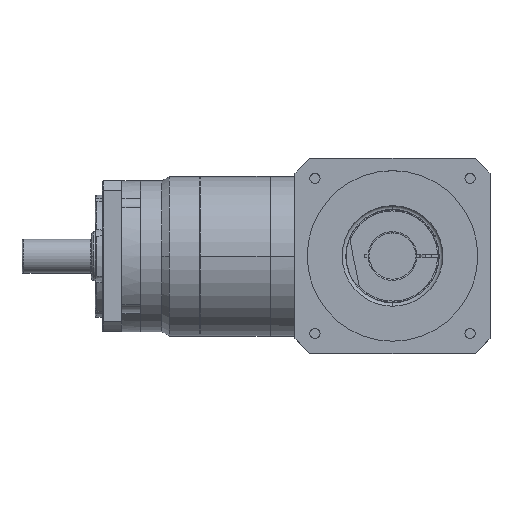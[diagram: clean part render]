
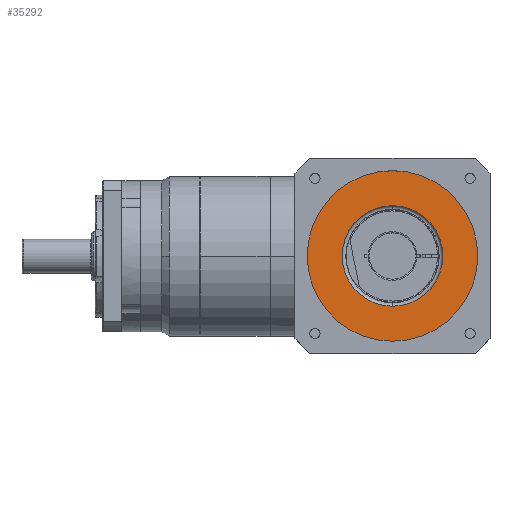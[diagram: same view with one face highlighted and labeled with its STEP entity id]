
A CAD part, top view. The second image highlights one B-rep face of the part: STEP entity #35292.
In plain terms, the highlighted planar face has unit normal (0, 0, 1) as drawn and (1, 0, 0) by its records, which use the part's own axes.
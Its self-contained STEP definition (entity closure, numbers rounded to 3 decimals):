
#1061 = DIRECTION ( 'NONE',  ( 1., 0., 0. ) ) ;
#1625 = VERTEX_POINT ( 'NONE', #49337 ) ;
#5383 = AXIS2_PLACEMENT_3D ( 'NONE', #41947, #41907, #41895 ) ;
#5548 = VERTEX_POINT ( 'NONE', #17118 ) ;
#6521 = CIRCLE ( 'NONE', #16475, 35. ) ;
#8918 = CARTESIAN_POINT ( 'NONE',  ( 28., 0., 0. ) ) ;
#10478 = CARTESIAN_POINT ( 'NONE',  ( 28., 0., -20.641 ) ) ;
#12896 = DIRECTION ( 'NONE',  ( 0., 0., -1. ) ) ;
#14221 = CARTESIAN_POINT ( 'NONE',  ( 28., 0., 0. ) ) ;
#16475 = AXIS2_PLACEMENT_3D ( 'NONE', #8918, #36411, #12896 ) ;
#16969 = ORIENTED_EDGE ( 'NONE', *, *, #19764, .T. ) ;
#17118 = CARTESIAN_POINT ( 'NONE',  ( 28., 0., -35. ) ) ;
#17545 = VERTEX_POINT ( 'NONE', #34386 ) ;
#18128 = DIRECTION ( 'NONE',  ( 0., 0., -1. ) ) ;
#19764 = EDGE_CURVE ( 'NONE', #46930, #1625, #39944, .T. ) ;
#20912 = CIRCLE ( 'NONE', #22256, 20.641 ) ;
#21941 = EDGE_LOOP ( 'NONE', ( #16969, #28868 ) ) ;
#22256 = AXIS2_PLACEMENT_3D ( 'NONE', #22347, #49472, #26349 ) ;
#22347 = CARTESIAN_POINT ( 'NONE',  ( 28., 0., 0. ) ) ;
#23438 = CIRCLE ( 'NONE', #26841, 35. ) ;
#24597 = CARTESIAN_POINT ( 'NONE',  ( 28., 0., 0. ) ) ;
#24831 = EDGE_LOOP ( 'NONE', ( #26366, #43748 ) ) ;
#26349 = DIRECTION ( 'NONE',  ( 0., 0., -1. ) ) ;
#26366 = ORIENTED_EDGE ( 'NONE', *, *, #28008, .T. ) ;
#26841 = AXIS2_PLACEMENT_3D ( 'NONE', #24597, #1061, #28581 ) ;
#28008 = EDGE_CURVE ( 'NONE', #5548, #17545, #23438, .T. ) ;
#28581 = DIRECTION ( 'NONE',  ( 0., 0., -1. ) ) ;
#28868 = ORIENTED_EDGE ( 'NONE', *, *, #29676, .T. ) ;
#29676 = EDGE_CURVE ( 'NONE', #1625, #46930, #20912, .T. ) ;
#34386 = CARTESIAN_POINT ( 'NONE',  ( 28., 0., 35. ) ) ;
#35292 = ADVANCED_FACE ( 'NONE', ( #37248, #47429 ), #45257, .T. ) ;
#36411 = DIRECTION ( 'NONE',  ( 1., 0., 0. ) ) ;
#37248 = FACE_BOUND ( 'NONE', #21941, .T. ) ;
#38461 = EDGE_CURVE ( 'NONE', #17545, #5548, #6521, .T. ) ;
#39944 = CIRCLE ( 'NONE', #5383, 20.641 ) ;
#41574 = DIRECTION ( 'NONE',  ( 1., 0., 0. ) ) ;
#41895 = DIRECTION ( 'NONE',  ( 0., 0., -1. ) ) ;
#41907 = DIRECTION ( 'NONE',  ( -1., 0., 0. ) ) ;
#41947 = CARTESIAN_POINT ( 'NONE',  ( 28., 0., 0. ) ) ;
#43159 = AXIS2_PLACEMENT_3D ( 'NONE', #14221, #41574, #18128 ) ;
#43748 = ORIENTED_EDGE ( 'NONE', *, *, #38461, .T. ) ;
#45257 = PLANE ( 'NONE',  #43159 ) ;
#46930 = VERTEX_POINT ( 'NONE', #10478 ) ;
#47429 = FACE_OUTER_BOUND ( 'NONE', #24831, .T. ) ;
#49337 = CARTESIAN_POINT ( 'NONE',  ( 28., 0., 20.641 ) ) ;
#49472 = DIRECTION ( 'NONE',  ( -1., 0., 0. ) ) ;
